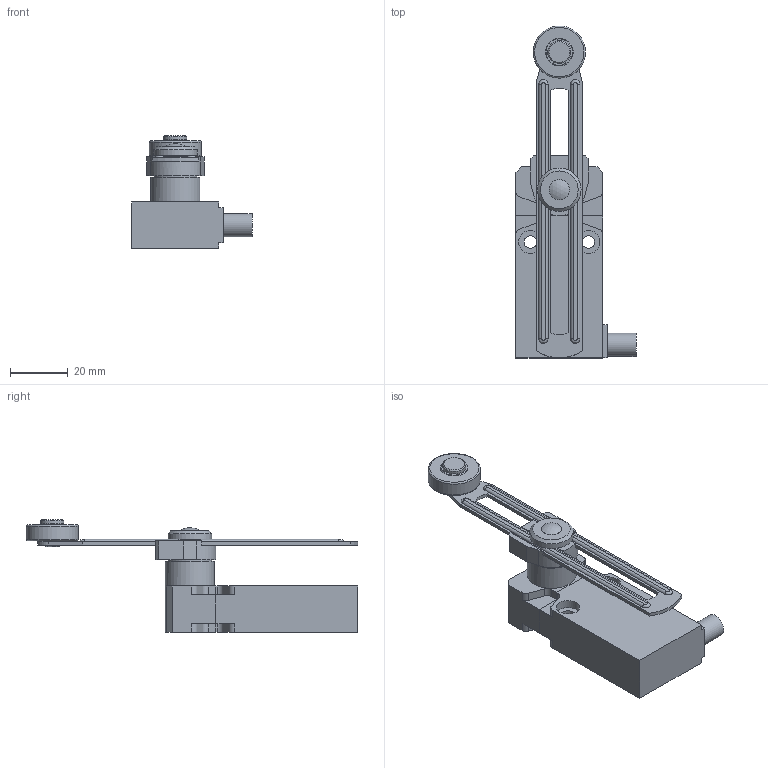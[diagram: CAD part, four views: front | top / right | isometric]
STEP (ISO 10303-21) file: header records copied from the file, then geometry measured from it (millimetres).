
FILE_DESCRIPTION((''),'2;1');
FILE_NAME('C:\Workarea\Disegni\Comepi\Catalogo\Stp\Finecorsa\EM1G51.iam.step','2011-07-22T16:16:42',(''),(''),'Autodesk Inventor 2012','Autodesk Inventor 2012','');
FILE_SCHEMA(('AUTOMOTIVE_DESIGN { 1 0 10303 214 1 1 1 1 }'));
Length unit declared in the file: millimetre
Products named in the file (6): EM1G51; EM1; G51; G51_1; G51_2; G51_3
Assembly tree (5 placements, depth 3):
  EM1G51
    EM1
    G51
      G51_1
      G51_2
      G51_3
Bounding box: 41.5 x 114.5 x 38.9 mm (x, y, z)
Volume: 38582.3 mm3; surface area: 14797.3 mm2
Topology: 5 solids, 5 shells, 146 faces, 347 edges, 229 vertices
Faces by surface type: plane 86, cylinder 40, torus 7, cone 6, bspline 4, sphere 3
Full cylindrical faces by diameter (mm): 4.3 x2, 6 x2, 7 x1, 8 x6, 15 x2, 17 x1, 18 x1
Entity records: 4338 total; most frequent: CARTESIAN_POINT 805, DIRECTION 734, ORIENTED_EDGE 634, EDGE_CURVE 317, AXIS2_PLACEMENT_3D 264, VERTEX_POINT 227, VECTOR 206, LINE 206
